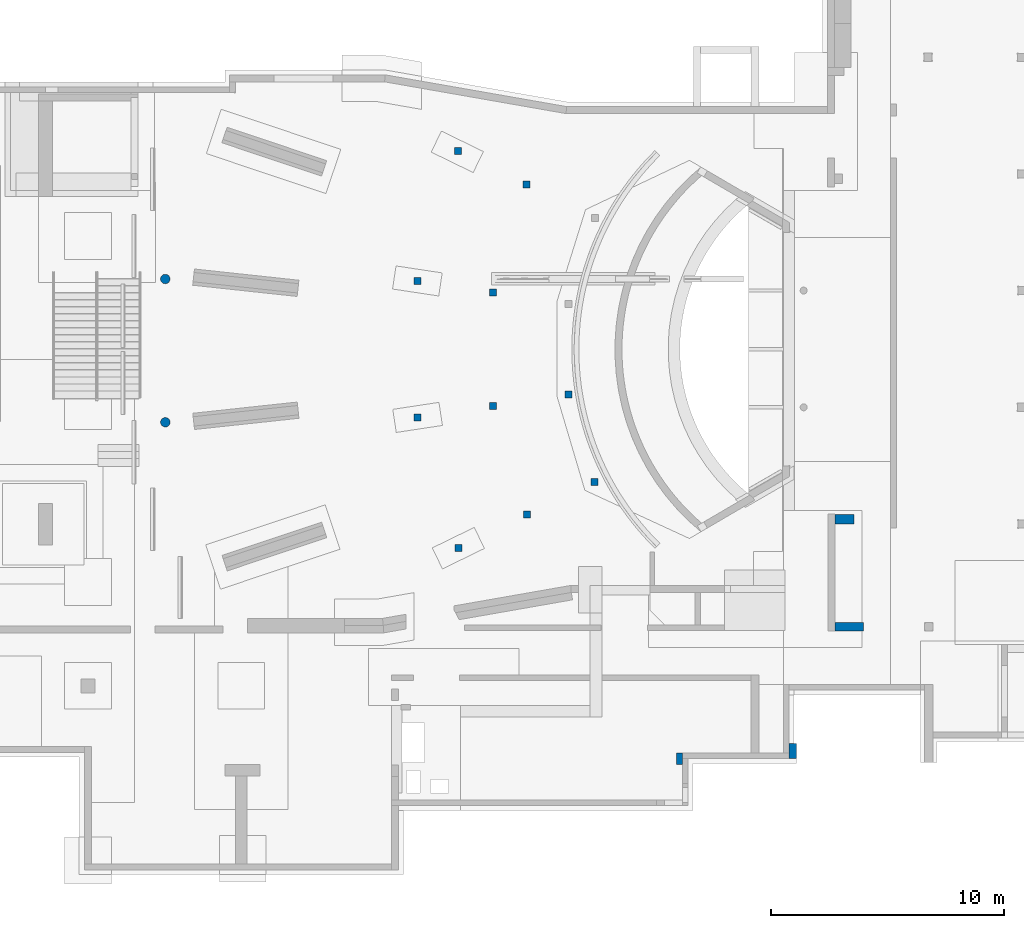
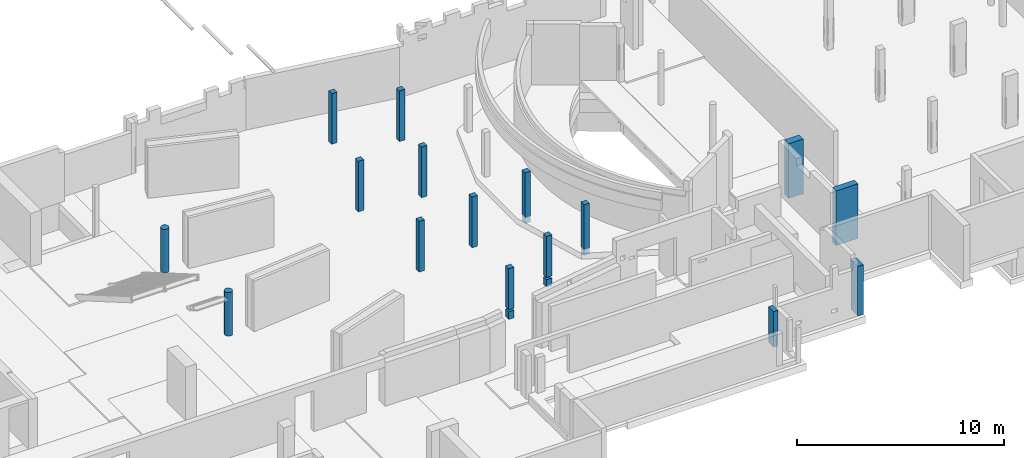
# One storey, part 3 of 42: 16 columns.
"""IFC2X3 building model written with IfcOpenShell, lengths in millimetres."""

import ifcopenshell
import ifcopenshell.guid

model = None  # the IFC model being written
_history = None  # IfcOwnerHistory: only IFC2X3 demands one
_inside = {}  # id of a spatial element -> (the spatial element, [elements in it])
_under = {}  # id of a project, library or spatial element -> (it, [spatial elements below it])
_declared = {}  # id of a project -> (the project, [libraries it declares])
_typed = {}  # id of a type object -> (the type object, [elements of that type])
_made_of = {}  # id of a material, layer set ... -> (it, [elements and type objects made of it])


def new_model(schema):
    """Start an empty IFC model of exactly this schema.

    Asked for "IFC4X3", IfcOpenShell would pick the latest addendum, in which some entities
    have other attributes; the version numbers below select the first issue.
    IFC2X3 requires an IfcOwnerHistory on every rooted entity: one is made here for all.
    """
    global model, _history
    if schema == "IFC4X3":
        model = ifcopenshell.file(schema_version=(4, 3, 0, 0))
    else:
        model = ifcopenshell.file(schema=schema)
    _inside.clear()
    _under.clear()
    _declared.clear()
    _typed.clear()
    _made_of.clear()
    _history = None
    if model.schema == "IFC2X3":
        org = make("IfcOrganization", Name="unknown")
        user = make(
            "IfcPersonAndOrganization",
            ThePerson=make("IfcPerson", FamilyName="unknown"),
            TheOrganization=org,
        )
        app = make(
            "IfcApplication",
            ApplicationDeveloper=org,
            Version="unknown",
            ApplicationFullName="unknown",
            ApplicationIdentifier="unknown",
        )
        _history = make(
            "IfcOwnerHistory",
            OwningUser=user,
            OwningApplication=app,
            ChangeAction="ADDED",
            CreationDate=0,
        )
    return model


def make(cls, **values):
    """One entity of the class cls with the attributes given. An attribute that is None is left unset."""
    return model.create_entity(
        cls, **{name: value for name, value in values.items() if value is not None}
    )


def entity(cls, *values):
    """Any entity or typed value of the class cls, its attributes in the order of the schema. None: left unset."""
    e = model.create_entity(cls)
    for i, value in enumerate(values):
        if value is not None:
            e[i] = value
    return e


def rooted(cls, **values):
    """An entity with a GlobalId (a new one), such as an element, a storey or a relation."""
    return make(cls, GlobalId=ifcopenshell.guid.new(), OwnerHistory=_history, **values)


def si_unit(unit_type, name, prefix=None):
    """IfcSIUnit, for example si_unit("LENGTHUNIT", "METRE", prefix="MILLI")."""
    return make("IfcSIUnit", UnitType=unit_type, Prefix=prefix, Name=name)


def converted_unit(unit_type, name, factor, base, dimensions=None, offset=None):
    """IfcConversionBasedUnit, such as the inch: factor (a typed value) times the base unit."""
    return make(
        "IfcConversionBasedUnit"
        if offset is None
        else "IfcConversionBasedUnitWithOffset",
        ConversionOffset=offset,
        Dimensions=None
        if dimensions is None
        else entity("IfcDimensionalExponents", *dimensions),
        UnitType=unit_type,
        Name=name,
        ConversionFactor=make(
            "IfcMeasureWithUnit", ValueComponent=factor, UnitComponent=base
        ),
    )


def derived_unit(unit_type, elements):
    """IfcDerivedUnit: a product of units, each with its exponent."""
    return make(
        "IfcDerivedUnit",
        Elements=[
            make("IfcDerivedUnitElement", Unit=unit, Exponent=power)
            for unit, power in elements
        ],
        UnitType=unit_type,
    )


def assignment(units):
    """IfcUnitAssignment: the units of a project."""
    return None if units is None else make("IfcUnitAssignment", Units=units)


def point(xyz):
    """IfcCartesianPoint."""
    return None if xyz is None else make("IfcCartesianPoint", Coordinates=xyz)


def direction(xyz):
    """IfcDirection."""
    return None if xyz is None else make("IfcDirection", DirectionRatios=xyz)


def frame(location, z_axis=None, x_axis=None):
    """IfcAxis2Placement3D, a coordinate frame: its origin and axes. An axis left out is left unset."""
    return make(
        "IfcAxis2Placement3D",
        Location=point(location),
        Axis=direction(z_axis),
        RefDirection=direction(x_axis),
    )


def frame_2d(location, x_axis=None):
    """IfcAxis2Placement2D, a coordinate frame in the plane: its origin and x axis."""
    return make(
        "IfcAxis2Placement2D", Location=point(location), RefDirection=direction(x_axis)
    )


def origin():
    """The frame at (0, 0, 0) with its axes left unset."""
    return frame((0.0, 0.0, 0.0))


def origin_2d_with_axis():
    """The frame at (0, 0) in the plane with the x axis (1, 0) written out."""
    return frame_2d((0.0, 0.0), x_axis=(1.0, 0.0))


def place(relative_to, where):
    """IfcLocalPlacement: puts the frame where relative to a parent placement (None: the world)."""
    return make(
        "IfcLocalPlacement", PlacementRelTo=relative_to, RelativePlacement=where
    )


def context(
    kind, dimensions, precision=None, world=None, true_north=None, identifier=None
):
    """IfcGeometricRepresentationContext, for example the 3D "Model" context."""
    return make(
        "IfcGeometricRepresentationContext",
        ContextIdentifier=identifier,
        ContextType=kind,
        CoordinateSpaceDimension=dimensions,
        Precision=precision,
        WorldCoordinateSystem=world,
        TrueNorth=true_north,
    )


def subcontext(parent, identifier, kind, view, scale=None):
    """IfcGeometricRepresentationSubContext, for example "Body" below "Model"."""
    return make(
        "IfcGeometricRepresentationSubContext",
        ContextIdentifier=identifier,
        ContextType=kind,
        ParentContext=parent,
        TargetScale=scale,
        TargetView=view,
    )


def project(units=None, contexts=None):
    """IfcProject with its units and contexts."""
    return rooted(
        "IfcProject",
        Name="project",
        RepresentationContexts=contexts,
        UnitsInContext=assignment(units),
    )


def spatial(cls, under=None, at=None, **own):
    """A site, building, storey or space (cls), placed at a placement, below another one or the project."""
    s = rooted(cls, ObjectPlacement=at, **own)
    if under is not None:
        _under.setdefault(under.id(), (under, []))[1].append(s)
    return s


def profile(cls, at=None, kind="AREA", **sizes):
    """A parametric profile (cls). Its sizes go by their IFC names, for example OverallWidth=200.0."""
    return make(cls, ProfileType=kind, Position=at, **sizes)


def rectangle(**sizes):
    """IfcRectangleProfileDef."""
    return profile("IfcRectangleProfileDef", **sizes)


def circle(**sizes):
    """IfcCircleProfileDef."""
    return profile("IfcCircleProfileDef", **sizes)


def hollow_circle(**sizes):
    """IfcCircleHollowProfileDef."""
    return profile("IfcCircleHollowProfileDef", **sizes)


def extrude(swept, where, along, depth):
    """IfcExtrudedAreaSolid: the profile swept, set in the frame where, extruded along a direction by depth."""
    return make(
        "IfcExtrudedAreaSolid",
        SweptArea=swept,
        Position=where,
        ExtrudedDirection=direction(along),
        Depth=depth,
    )


def shape(context_of_items, identifier, shape_type, items):
    """IfcShapeRepresentation: the items that make up one representation, for example the "Body"."""
    return make(
        "IfcShapeRepresentation",
        ContextOfItems=context_of_items,
        RepresentationIdentifier=identifier,
        RepresentationType=shape_type,
        Items=items,
    )


def source(mapping_origin, context_of_items, identifier, shape_type, items):
    """IfcRepresentationMap: a shape defined once, which mapped items show again and again."""
    return make(
        "IfcRepresentationMap",
        MappingOrigin=mapping_origin,
        MappedRepresentation=shape(context_of_items, identifier, shape_type, items),
    )


def transform(
    local_origin,
    x_axis=None,
    y_axis=None,
    z_axis=None,
    scale=None,
    scale2=None,
    scale3=None,
    uniform=True,
):
    """IfcCartesianTransformationOperator3D, or its non-uniform kind. x_axis, y_axis, z_axis: its Axis1, 2, 3."""
    if uniform:
        return make(
            "IfcCartesianTransformationOperator3D",
            Axis1=direction(x_axis),
            Axis2=direction(y_axis),
            LocalOrigin=point(local_origin),
            Scale=scale,
            Axis3=direction(z_axis),
        )
    return make(
        "IfcCartesianTransformationOperator3DnonUniform",
        Axis1=direction(x_axis),
        Axis2=direction(y_axis),
        LocalOrigin=point(local_origin),
        Scale=scale,
        Axis3=direction(z_axis),
        Scale2=scale2,
        Scale3=scale3,
    )


def mapped(mapping_source, mapping_target):
    """IfcMappedItem: shows the shape of a source again, moved by a transform."""
    return make(
        "IfcMappedItem", MappingSource=mapping_source, MappingTarget=mapping_target
    )


def material(Name=None, Category=None):
    """IfcMaterial."""
    return make("IfcMaterial", Name=Name, Category=Category)


def material_list(materials):
    """IfcMaterialList."""
    return make("IfcMaterialList", Materials=materials)


def made_of(thing, what):
    """Note that an element or type object is made of a material, layer set ...; save() writes the relation."""
    if what is not None:
        _made_of.setdefault(what.id(), (what, []))[1].append(thing)
    return thing


def type_object(cls, material=None, **own):
    """A type object (cls), such as IfcWallType, which elements share."""
    return made_of(rooted(cls, **own), material)


def type_shapes(of_type, sources):
    """Give a type object the sources (RepresentationMaps) that its elements show as mapped items."""
    of_type.RepresentationMaps = sources


def element(
    cls,
    number,
    at=None,
    inside=None,
    cuts=None,
    type_object=None,
    material=None,
    context=None,
    identifier="Body",
    shape_type=None,
    held_by="IfcProductDefinitionShape",
    body=None,
    shapes=None,
    **own,
):
    """One element of the class cls, such as IfcWall. Its Tag is "e" and its number.

    at: its placement. inside: the storey or other place that contains it. cuts: it is an
    opening in that element (IfcRelVoidsElement). A single representation is given by context,
    identifier, shape_type and body (its items); several are given by shapes. held_by: the class
    of the entity that holds the representations. save() writes the other relations.
    """
    e = rooted(cls, Tag="e%d" % number, ObjectPlacement=at, **own)
    if body is not None:
        shapes = [shape(context, identifier, shape_type, body)]
    if shapes is not None:
        e.Representation = make(held_by, Representations=shapes)
    if inside is not None:
        _inside.setdefault(inside.id(), (inside, []))[1].append(e)
    if cuts is not None:
        rooted(
            "IfcRelVoidsElement", RelatingBuildingElement=cuts, RelatedOpeningElement=e
        )
    if type_object is not None:
        _typed.setdefault(type_object.id(), (type_object, []))[1].append(e)
    return made_of(e, material)


def aggregate(whole, parts):
    """IfcRelAggregates: a whole, such as a stair, and the parts it consists of."""
    return rooted("IfcRelAggregates", RelatingObject=whole, RelatedObjects=parts)


def save(model, path):
    """Write the relations noted so far, then the file.

    IfcRelAggregates (storeys below a building ...), IfcRelContainedInSpatialStructure (elements
    in a storey), IfcRelDefinesByType, IfcRelAssociatesMaterial and IfcRelDeclares: one each for
    every whole, place, type object, material and project.
    """
    for whole, parts in _under.values():
        aggregate(whole, parts)
    for where, things in _inside.values():
        rooted(
            "IfcRelContainedInSpatialStructure",
            RelatedElements=things,
            RelatingStructure=where,
        )
    for kind, things in _typed.values():
        rooted("IfcRelDefinesByType", RelatedObjects=things, RelatingType=kind)
    for what, things in _made_of.values():
        rooted("IfcRelAssociatesMaterial", RelatedObjects=things, RelatingMaterial=what)
    for by, libraries in _declared.values():
        rooted("IfcRelDeclares", RelatingContext=by, RelatedDefinitions=libraries)
    model.write(path)


model = new_model("IFC2X3")

# Units and contexts
model_context = context("Model", 3, precision=0.01, world=origin(), true_north=direction((6.12303176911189e-17, 1.0)))
body_context = subcontext(model_context, "Body", "Model", "MODEL_VIEW")
ifc_project = project(units=[si_unit("LENGTHUNIT", "METRE", prefix="MILLI"), si_unit("AREAUNIT", "SQUARE_METRE", prefix="MILLI"), si_unit("VOLUMEUNIT", "CUBIC_METRE"), converted_unit("PLANEANGLEUNIT", "DEGREE", entity("IfcRatioMeasure", 0.0174532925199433), si_unit("PLANEANGLEUNIT", "RADIAN"), dimensions=[0, 0, 0, 0, 0, 0, 0]), si_unit("MASSUNIT", "GRAM", prefix="KILO"), derived_unit("MASSDENSITYUNIT", [(si_unit("MASSUNIT", "GRAM", prefix="KILO"), 1), (si_unit("LENGTHUNIT", "METRE"), -3)]), derived_unit("MOMENTOFINERTIAUNIT", [(si_unit("LENGTHUNIT", "METRE"), 4)]), si_unit("TIMEUNIT", "SECOND"), si_unit("FREQUENCYUNIT", "HERTZ"), si_unit("THERMODYNAMICTEMPERATUREUNIT", "DEGREE_CELSIUS"), derived_unit("THERMALTRANSMITTANCEUNIT", [(si_unit("MASSUNIT", "GRAM", prefix="KILO"), 1), (si_unit("THERMODYNAMICTEMPERATUREUNIT", "KELVIN"), -1), (si_unit("TIMEUNIT", "SECOND"), -3)]), derived_unit("VOLUMETRICFLOWRATEUNIT", [(si_unit("LENGTHUNIT", "METRE"), 3), (si_unit("TIMEUNIT", "SECOND"), -1)]), si_unit("ELECTRICCURRENTUNIT", "AMPERE"), si_unit("ELECTRICVOLTAGEUNIT", "VOLT"), si_unit("POWERUNIT", "WATT"), si_unit("FORCEUNIT", "NEWTON", prefix="KILO"), si_unit("ILLUMINANCEUNIT", "LUX"), si_unit("LUMINOUSFLUXUNIT", "LUMEN"), si_unit("LUMINOUSINTENSITYUNIT", "CANDELA"), derived_unit("USERDEFINED", [(si_unit("MASSUNIT", "GRAM", prefix="KILO"), -1), (si_unit("LENGTHUNIT", "METRE"), -2), (si_unit("TIMEUNIT", "SECOND"), 3), (si_unit("LUMINOUSFLUXUNIT", "LUMEN"), 1)]), derived_unit("LINEARVELOCITYUNIT", [(si_unit("LENGTHUNIT", "METRE"), 1), (si_unit("TIMEUNIT", "SECOND"), -1)]), si_unit("PRESSUREUNIT", "PASCAL"), derived_unit("USERDEFINED", [(si_unit("LENGTHUNIT", "METRE"), -2), (si_unit("MASSUNIT", "GRAM", prefix="KILO"), 1), (si_unit("TIMEUNIT", "SECOND"), -2)]), derived_unit("LINEARFORCEUNIT", [(si_unit("MASSUNIT", "GRAM", prefix="KILO"), 1), (si_unit("LENGTHUNIT", "METRE"), 1), (si_unit("TIMEUNIT", "SECOND"), -2), (si_unit("LENGTHUNIT", "METRE"), -1)]), derived_unit("PLANARFORCEUNIT", [(si_unit("MASSUNIT", "GRAM", prefix="KILO"), 1), (si_unit("LENGTHUNIT", "METRE"), 1), (si_unit("TIMEUNIT", "SECOND"), -2), (si_unit("LENGTHUNIT", "METRE"), -2)])], contexts=[model_context])

# Site, building, storey
site_placement = place(None, origin())
site = spatial("IfcSite", under=ifc_project, at=site_placement, Name="Theater aan de Parade", CompositionType="ELEMENT")
building_placement = place(site_placement, origin())
building = spatial("IfcBuilding", under=site, at=building_placement, Name="Theater aan de Parade", CompositionType="ELEMENT")
storey_placement = place(building_placement, frame((0.0, 0.0, -3300.0)))
storey = spatial("IfcBuildingStorey", under=building, at=storey_placement, Name="-1 kelder", CompositionType="ELEMENT", Elevation=-3300.0)

# Columns
ifc_material_1 = material(Name="00_PBT_MAT_beton t.p.g.")
column_type_1 = type_object("IfcColumnType", Name="28_PBT_SC_beton_rechthoekig:1520x350_bestaand", PredefinedType="COLUMN", material=ifc_material_1)
shared_shape_1 = source(origin(), body_context, "Body", "SweptSolid", [
    extrude(rectangle(XDim=350.000000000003, YDim=1220.0, at=origin_2d_with_axis()), frame((71570.0, 20570.0, -2640.0), z_axis=(0.0, 0.0, 1.0), x_axis=(0.0, -1.0, 0.0)), (0.0, 0.0, 1.0), 3220.0),
])
type_shapes(column_type_1, [shared_shape_1])
column_1_placement = place(storey_placement, frame((0.0, 0.0, 3300.0)))
element("IfcColumn", 1, at=column_1_placement, inside=storey, type_object=column_type_1, material=ifc_material_1, Name="28_PBT_SC_beton_rechthoekig:1520x350_bestaand", ObjectType="28_PBT_SC_beton_rechthoekig:1520x350_bestaand", context=body_context, shape_type="MappedRepresentation", body=[
    mapped(shared_shape_1, transform((0.0, 0.0, 0.0), scale=1.0)),
])
column_type_2 = type_object("IfcColumnType", Name="28_PBT_SC_beton_rechthoekig:1120x400_bestaand", PredefinedType="COLUMN", material=ifc_material_1)
shared_shape_2 = source(origin(), body_context, "Body", "SweptSolid", [
    extrude(rectangle(XDim=400.0, YDim=820.000000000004, at=frame_2d((0.0, -4.34852154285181e-12), x_axis=(1.0, 0.0))), frame((71370.0, 25170.0, -2640.0), z_axis=(0.0, 0.0, 1.0), x_axis=(0.0, -1.0, 0.0)), (0.0, 0.0, 1.0), 3220.0),
])
type_shapes(column_type_2, [shared_shape_2])
column_2_placement = place(storey_placement, frame((0.0, 0.0, 3300.0)))
element("IfcColumn", 2, at=column_2_placement, inside=storey, type_object=column_type_2, material=ifc_material_1, Name="28_PBT_SC_beton_rechthoekig:1120x400_bestaand", ObjectType="28_PBT_SC_beton_rechthoekig:1120x400_bestaand", context=body_context, shape_type="MappedRepresentation", body=[
    mapped(shared_shape_2, transform((0.0, 0.0, 0.0), scale=1.0)),
])
column_type_3 = type_object("IfcColumnType", Name="16_PBT_SC_beton_rechthoekig:660x570_bestaand", PredefinedType="COLUMN", material=ifc_material_1)
shared_shape_3 = source(origin(), body_context, "Body", "SweptSolid", [
    extrude(rectangle(XDim=660.000000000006, YDim=319.999999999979, at=frame_2d((0.0, 4.32009983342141e-12), x_axis=(1.0, 0.0))), frame((69160.0, 15250.0, -2780.0), z_axis=(0.0, 0.0, 1.0), x_axis=(0.0, -1.0, 0.0)), (0.0, 0.0, 1.0), 2920.00000000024),
])
type_shapes(column_type_3, [shared_shape_3])
column_3_placement = place(storey_placement, frame((0.0, 0.0, 3300.0)))
element("IfcColumn", 3, at=column_3_placement, inside=storey, type_object=column_type_3, material=ifc_material_1, Name="16_PBT_SC_beton_rechthoekig:660x570_bestaand", ObjectType="16_PBT_SC_beton_rechthoekig:660x570_bestaand", context=body_context, shape_type="MappedRepresentation", body=[
    mapped(shared_shape_3, transform((0.0, 0.0, 0.0), scale=1.0)),
])
column_type_4 = type_object("IfcColumnType", Name="16_PBT_SC_beton_rechthoekig:500x500_bestaand", PredefinedType="COLUMN", material=ifc_material_1)
shared_shape_4 = source(origin(), body_context, "Body", "SweptSolid", [
    extrude(rectangle(XDim=500.00000000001, YDim=249.999999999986, at=frame_2d((-3.25428572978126e-12, 8.66151594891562e-12), x_axis=(1.0, 0.0))), frame((64295.0, 14920.0, -2780.0), z_axis=(0.0, 0.0, 1.0), x_axis=(0.0, -1.0, 0.0)), (0.0, 0.0, 1.0), 2099.99999999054),
])
type_shapes(column_type_4, [shared_shape_4])
column_4_placement = place(storey_placement, frame((0.0, 0.0, 3300.0)))
element("IfcColumn", 4, at=column_4_placement, inside=storey, type_object=column_type_4, material=ifc_material_1, Name="16_PBT_SC_beton_rechthoekig:500x500_bestaand", ObjectType="16_PBT_SC_beton_rechthoekig:500x500_bestaand", context=body_context, shape_type="MappedRepresentation", body=[
    mapped(shared_shape_4, transform((0.0, 0.0, 0.0), scale=1.0)),
])
column_type_5 = type_object("IfcColumnType", Name="28_PBT_SC_beton_rechthoekig:300x300_bestaand", PredefinedType="COLUMN", material=ifc_material_1)
shared_shape_5 = source(origin(), body_context, "Body", "SweptSolid", [
    extrude(rectangle(XDim=300.000000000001, YDim=300.000000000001, at=origin_2d_with_axis()), frame((60665.0, 26775.0, -3340.0), z_axis=(0.0, 0.0, 1.0), x_axis=(0.0, -1.0, 0.0)), (0.0, 0.0, 1.0), 2980.0),
])
type_shapes(column_type_5, [shared_shape_5])
column_5_placement = place(storey_placement, frame((0.0, 0.0, 3300.0)))
element("IfcColumn", 5, at=column_5_placement, inside=storey, type_object=column_type_5, material=ifc_material_1, Name="28_PBT_SC_beton_rechthoekig:300x300_bestaand", ObjectType="28_PBT_SC_beton_rechthoekig:300x300_bestaand", context=body_context, shape_type="MappedRepresentation", body=[
    mapped(shared_shape_5, transform((0.0, 0.0, 0.0), scale=1.0)),
])
column_type_6 = type_object("IfcColumnType", Name="28_PBT_SC_beton_rechthoekig:300x300_bestaand", PredefinedType="COLUMN", material=ifc_material_1)
shared_shape_6 = source(origin(), body_context, "Body", "SweptSolid", [
    extrude(rectangle(XDim=300.000000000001, YDim=300.000000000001, at=origin_2d_with_axis()), frame((59555.0, 30517.0, -3340.0), z_axis=(0.0, 0.0, 1.0), x_axis=(0.0, -1.0, 0.0)), (0.0, 0.0, 1.0), 2980.0),
])
type_shapes(column_type_6, [shared_shape_6])
column_6_placement = place(storey_placement, frame((0.0, 0.0, 3300.0)))
element("IfcColumn", 6, at=column_6_placement, inside=storey, type_object=column_type_6, material=ifc_material_1, Name="28_PBT_SC_beton_rechthoekig:300x300_bestaand", ObjectType="28_PBT_SC_beton_rechthoekig:300x300_bestaand", context=body_context, shape_type="MappedRepresentation", body=[
    mapped(shared_shape_6, transform((0.0, 0.0, 0.0), scale=1.0)),
])
column_type_7 = type_object("IfcColumnType", Name="28_PBT_SC_beton_rechthoekig:300x300_bestaand", PredefinedType="COLUMN", material=ifc_material_1)
shared_shape_7 = source(origin(), body_context, "Body", "SweptSolid", [
    extrude(rectangle(XDim=300.000000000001, YDim=300.000000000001, at=origin_2d_with_axis()), frame((54810.0, 40948.0, -3340.0), z_axis=(0.0, 0.0, 1.0), x_axis=(0.0, -1.0, 0.0)), (0.0, 0.0, 1.0), 2980.0),
])
type_shapes(column_type_7, [shared_shape_7])
column_7_placement = place(storey_placement, frame((0.0, 0.0, 3300.0)))
element("IfcColumn", 7, at=column_7_placement, inside=storey, type_object=column_type_7, material=ifc_material_1, Name="28_PBT_SC_beton_rechthoekig:300x300_bestaand", ObjectType="28_PBT_SC_beton_rechthoekig:300x300_bestaand", context=body_context, shape_type="MappedRepresentation", body=[
    mapped(shared_shape_7, transform((0.0, 0.0, 0.0), scale=1.0)),
])
column_type_8 = type_object("IfcColumnType", Name="28_PBT_SC_beton_rechthoekig:300x300_bestaand", PredefinedType="COLUMN", material=ifc_material_1)
shared_shape_8 = source(origin(), body_context, "Body", "SweptSolid", [
    extrude(rectangle(XDim=300.000000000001, YDim=300.000000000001, at=origin_2d_with_axis()), frame((53075.0, 35382.0, -3340.0), z_axis=(0.0, 0.0, 1.0), x_axis=(0.0, -1.0, 0.0)), (0.0, 0.0, 1.0), 2980.0),
])
type_shapes(column_type_8, [shared_shape_8])
column_8_placement = place(storey_placement, frame((0.0, 0.0, 3300.0)))
element("IfcColumn", 8, at=column_8_placement, inside=storey, type_object=column_type_8, material=ifc_material_1, Name="28_PBT_SC_beton_rechthoekig:300x300_bestaand", ObjectType="28_PBT_SC_beton_rechthoekig:300x300_bestaand", context=body_context, shape_type="MappedRepresentation", body=[
    mapped(shared_shape_8, transform((0.0, 0.0, 0.0), scale=1.0)),
])
column_type_9 = type_object("IfcColumnType", Name="28_PBT_SC_beton_rechthoekig:300x300_bestaand", PredefinedType="COLUMN", material=ifc_material_1)
shared_shape_9 = source(origin(), body_context, "Body", "SweptSolid", [
    extrude(rectangle(XDim=300.000000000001, YDim=300.000000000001, at=origin_2d_with_axis()), frame((57750.0, 39514.0, -3340.0), z_axis=(0.0, 0.0, 1.0), x_axis=(0.0, -1.0, 0.0)), (0.0, 0.0, 1.0), 2980.0),
])
type_shapes(column_type_9, [shared_shape_9])
column_9_placement = place(storey_placement, frame((0.0, 0.0, 3300.0)))
element("IfcColumn", 9, at=column_9_placement, inside=storey, type_object=column_type_9, material=ifc_material_1, Name="28_PBT_SC_beton_rechthoekig:300x300_bestaand", ObjectType="28_PBT_SC_beton_rechthoekig:300x300_bestaand", context=body_context, shape_type="MappedRepresentation", body=[
    mapped(shared_shape_9, transform((0.0, 0.0, 0.0), scale=1.0)),
])
column_type_10 = type_object("IfcColumnType", Name="28_PBT_SC_beton_rechthoekig:300x300_bestaand", PredefinedType="COLUMN", material=ifc_material_1)
shared_shape_10 = source(origin(), body_context, "Body", "SweptSolid", [
    extrude(rectangle(XDim=300.000000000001, YDim=300.000000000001, at=origin_2d_with_axis()), frame((56310.0, 34892.4999999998, -3340.0), z_axis=(0.0, 0.0, 1.0), x_axis=(0.0, -1.0, 0.0)), (0.0, 0.0, 1.0), 2980.0),
])
type_shapes(column_type_10, [shared_shape_10])
column_10_placement = place(storey_placement, frame((0.0, 0.0, 3300.0)))
element("IfcColumn", 10, at=column_10_placement, inside=storey, type_object=column_type_10, material=ifc_material_1, Name="28_PBT_SC_beton_rechthoekig:300x300_bestaand", ObjectType="28_PBT_SC_beton_rechthoekig:300x300_bestaand", context=body_context, shape_type="MappedRepresentation", body=[
    mapped(shared_shape_10, transform((0.0, 0.0, 0.0), scale=1.0)),
])
column_type_11 = type_object("IfcColumnType", Name="28_PBT_SC_beton_rechthoekig:300x300_bestaand", PredefinedType="COLUMN", material=ifc_material_1)
shared_shape_11 = source(origin(), body_context, "Body", "SweptSolid", [
    extrude(rectangle(XDim=300.000000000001, YDim=300.000000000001, at=origin_2d_with_axis()), frame((54830.0, 23937.0, -3340.0), z_axis=(0.0, 0.0, 1.0), x_axis=(0.0, -1.0, 0.0)), (0.0, 0.0, 1.0), 440.0),
    extrude(rectangle(XDim=300.000000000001, YDim=300.000000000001, at=origin_2d_with_axis()), frame((54830.0, 23937.0, -2780.0), z_axis=(0.0, 0.0, 1.0), x_axis=(0.0, -1.0, 0.0)), (0.0, 0.0, 1.0), 2420.0),
])
type_shapes(column_type_11, [shared_shape_11])
column_11_placement = place(storey_placement, frame((0.0, 0.0, 3300.0)))
element("IfcColumn", 11, at=column_11_placement, inside=storey, type_object=column_type_11, material=ifc_material_1, Name="28_PBT_SC_beton_rechthoekig:300x300_bestaand", ObjectType="28_PBT_SC_beton_rechthoekig:300x300_bestaand", context=body_context, shape_type="MappedRepresentation", body=[
    mapped(shared_shape_11, transform((0.0, 0.0, 0.0), scale=1.0)),
])
column_type_12 = type_object("IfcColumnType", Name="28_PBT_SC_beton_rechthoekig:300x300_bestaand", PredefinedType="COLUMN", material=ifc_material_1)
shared_shape_12 = source(origin(), body_context, "Body", "SweptSolid", [
    extrude(rectangle(XDim=300.000000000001, YDim=300.000000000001, at=origin_2d_with_axis()), frame((53085.0, 29538.0, -3340.0), z_axis=(0.0, 0.0, 1.0), x_axis=(0.0, -1.0, 0.0)), (0.0, 0.0, 1.0), 2980.0),
])
type_shapes(column_type_12, [shared_shape_12])
column_12_placement = place(storey_placement, frame((0.0, 0.0, 3300.0)))
element("IfcColumn", 12, at=column_12_placement, inside=storey, type_object=column_type_12, material=ifc_material_1, Name="28_PBT_SC_beton_rechthoekig:300x300_bestaand", ObjectType="28_PBT_SC_beton_rechthoekig:300x300_bestaand", context=body_context, shape_type="MappedRepresentation", body=[
    mapped(shared_shape_12, transform((0.0, 0.0, 0.0), scale=1.0)),
])
column_type_13 = type_object("IfcColumnType", Name="28_PBT_SC_beton_rechthoekig:300x300_bestaand", PredefinedType="COLUMN", material=ifc_material_1)
shared_shape_13 = source(origin(), body_context, "Body", "SweptSolid", [
    extrude(rectangle(XDim=300.000000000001, YDim=300.000000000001, at=origin_2d_with_axis()), frame((57770.0, 25371.0, -3340.0), z_axis=(0.0, 0.0, 1.0), x_axis=(0.0, -1.0, 0.0)), (0.0, 0.0, 1.0), 440.0),
    extrude(rectangle(XDim=300.000000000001, YDim=300.000000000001, at=origin_2d_with_axis()), frame((57770.0, 25371.0, -2780.0), z_axis=(0.0, 0.0, 1.0), x_axis=(0.0, -1.0, 0.0)), (0.0, 0.0, 1.0), 2420.0),
])
type_shapes(column_type_13, [shared_shape_13])
column_13_placement = place(storey_placement, frame((0.0, 0.0, 3300.0)))
element("IfcColumn", 13, at=column_13_placement, inside=storey, type_object=column_type_13, material=ifc_material_1, Name="28_PBT_SC_beton_rechthoekig:300x300_bestaand", ObjectType="28_PBT_SC_beton_rechthoekig:300x300_bestaand", context=body_context, shape_type="MappedRepresentation", body=[
    mapped(shared_shape_13, transform((0.0, 0.0, 0.0), scale=1.0)),
])
column_type_14 = type_object("IfcColumnType", Name="28_PBT_SC_beton_rechthoekig:300x300_bestaand", PredefinedType="COLUMN", material=ifc_material_1)
shared_shape_14 = source(origin(), body_context, "Body", "SweptSolid", [
    extrude(rectangle(XDim=300.000000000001, YDim=300.000000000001, at=origin_2d_with_axis()), frame((56320.0, 30027.4999999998, -3340.0), z_axis=(0.0, 0.0, 1.0), x_axis=(0.0, -1.0, 0.0)), (0.0, 0.0, 1.0), 2980.0),
])
type_shapes(column_type_14, [shared_shape_14])
column_14_placement = place(storey_placement, frame((0.0, 0.0, 3300.0)))
element("IfcColumn", 14, at=column_14_placement, inside=storey, type_object=column_type_14, material=ifc_material_1, Name="28_PBT_SC_beton_rechthoekig:300x300_bestaand", ObjectType="28_PBT_SC_beton_rechthoekig:300x300_bestaand", context=body_context, shape_type="MappedRepresentation", body=[
    mapped(shared_shape_14, transform((0.0, 0.0, 0.0), scale=1.0)),
])
ifc_material_2 = material(Name="00_PBT_MAT_beton t.p.g._C40/50")
ifc_material_3 = material(Name="00_PBT_MAT_staal_S355")
ifc_material_list_1 = material_list([ifc_material_2, ifc_material_3])
ifc_material_list_2 = material_list([ifc_material_2, ifc_material_3])
column_type_15 = type_object("IfcColumnType", Name="28_PBT_SC_staal_buis:S355_B406.4x6.3_GB_C40/50", PredefinedType="COLUMN", material=ifc_material_list_2)
shared_shape_15 = source(origin(), body_context, "Body", "SweptSolid", [
    extrude(circle(Radius=196.9, at=origin_2d_with_axis()), frame((42278.8683762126, 35465.1873435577, -3205.0)), (0.0, 0.0, 1.0), 2565.00000000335),
    extrude(hollow_circle(Radius=203.2, WallThickness=6.29999999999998, at=origin_2d_with_axis()), frame((42278.8683762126, 35465.1873435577, -3205.0), z_axis=(0.0, 0.0, 1.0), x_axis=(-1.0, 0.0, 0.0)), (0.0, 0.0, 1.0), 2565.00000000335),
])
type_shapes(column_type_15, [shared_shape_15])
column_15_placement = place(storey_placement, frame((0.0, 0.0, 3300.0)))
element("IfcColumn", 15, at=column_15_placement, inside=storey, type_object=column_type_15, material=ifc_material_list_1, Name="28_PBT_SC_staal_buis:S355_B406.4x6.3_GB_C40/50", ObjectType="28_PBT_SC_staal_buis:S355_B406.4x6.3_GB_C40/50", context=body_context, shape_type="MappedRepresentation", body=[
    mapped(shared_shape_15, transform((0.0, 0.0, 0.0), scale=1.0)),
])
ifc_material_list_3 = material_list([ifc_material_2, ifc_material_3])
ifc_material_list_4 = material_list([ifc_material_2, ifc_material_3])
column_type_16 = type_object("IfcColumnType", Name="28_PBT_SC_staal_buis:S355_B406.4x6.3_GB_C40/50", PredefinedType="COLUMN", material=ifc_material_list_4)
shared_shape_16 = source(origin(), body_context, "Body", "SweptSolid", [
    extrude(circle(Radius=196.9, at=frame_2d((0.0, 4.33146851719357e-12), x_axis=(1.0, 0.0))), frame((42278.8683762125, 29329.7858290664, -3205.0)), (0.0, 0.0, 1.0), 2565.00000000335),
    extrude(hollow_circle(Radius=203.2, WallThickness=6.29999999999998, at=origin_2d_with_axis()), frame((42278.8683762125, 29329.7858290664, -3205.0), z_axis=(0.0, 0.0, 1.0), x_axis=(-1.0, 0.0, 0.0)), (0.0, 0.0, 1.0), 2565.00000000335),
])
type_shapes(column_type_16, [shared_shape_16])
column_16_placement = place(storey_placement, frame((0.0, 0.0, 3300.0)))
element("IfcColumn", 16, at=column_16_placement, inside=storey, type_object=column_type_16, material=ifc_material_list_3, Name="28_PBT_SC_staal_buis:S355_B406.4x6.3_GB_C40/50", ObjectType="28_PBT_SC_staal_buis:S355_B406.4x6.3_GB_C40/50", context=body_context, shape_type="MappedRepresentation", body=[
    mapped(shared_shape_16, transform((0.0, 0.0, 0.0), scale=1.0)),
])

save(model, "model.ifc")
